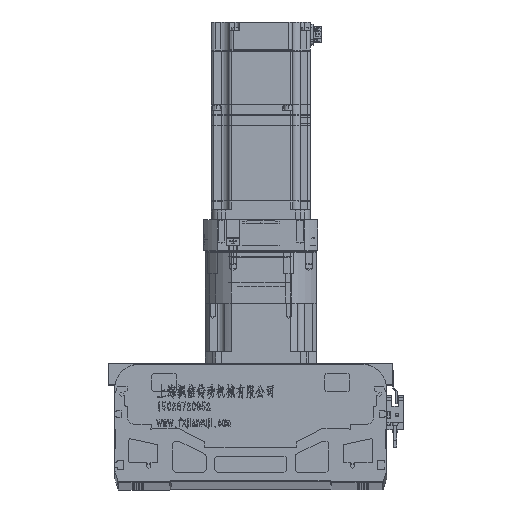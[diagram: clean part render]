
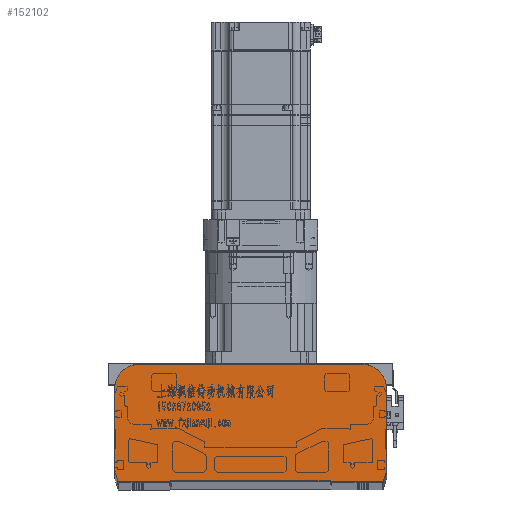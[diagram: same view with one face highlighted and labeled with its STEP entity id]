
A CAD part, top view. The second image highlights one B-rep face of the part: STEP entity #152102.
In plain terms, the highlighted planar face has unit normal (0, 0, 1).
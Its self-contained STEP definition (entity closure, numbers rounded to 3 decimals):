
#2049 = VERTEX_POINT ( 'NONE', #125816 ) ;
#2744 = CARTESIAN_POINT ( 'NONE',  ( -1113.885, 1156.078, 3682. ) ) ;
#4117 = EDGE_CURVE ( 'NONE', #109192, #2049, #8654, .T. ) ;
#7277 = CARTESIAN_POINT ( 'NONE',  ( -1113.885, 1089.578, 3682. ) ) ;
#8654 = LINE ( 'NONE', #149180, #144306 ) ;
#9481 = CIRCLE ( 'NONE', #126124, 20. ) ;
#9866 = CARTESIAN_POINT ( 'NONE',  ( -913.885, 1156.078, 3682. ) ) ;
#10265 = VERTEX_POINT ( 'NONE', #2744 ) ;
#11826 = CARTESIAN_POINT ( 'NONE',  ( -893.885, 0., 3682. ) ) ;
#12565 = DIRECTION ( 'NONE',  ( 1., 0., 0. ) ) ;
#13036 = ORIENTED_EDGE ( 'NONE', *, *, #178438, .T. ) ;
#14247 = VECTOR ( 'NONE', #174231, 1000. ) ;
#14442 = DIRECTION ( 'NONE',  ( 0., 0., -1. ) ) ;
#15417 = DIRECTION ( 'NONE',  ( 0., 0., 1. ) ) ;
#19716 = DIRECTION ( 'NONE',  ( 0., 0., 1. ) ) ;
#21393 = AXIS2_PLACEMENT_3D ( 'NONE', #41570, #172647, #141782 ) ;
#23619 = LINE ( 'NONE', #81642, #45430 ) ;
#24097 = VERTEX_POINT ( 'NONE', #138201 ) ;
#28680 = LINE ( 'NONE', #11826, #111239 ) ;
#30327 = VECTOR ( 'NONE', #123907, 1000. ) ;
#30611 = VERTEX_POINT ( 'NONE', #45020 ) ;
#31975 = CARTESIAN_POINT ( 'NONE',  ( 0., 0., 3682. ) ) ;
#37662 = CARTESIAN_POINT ( 'NONE',  ( -1131.749, 378.678, 3682. ) ) ;
#41570 = CARTESIAN_POINT ( 'NONE',  ( -1106.605, 1083.578, 3682. ) ) ;
#44999 = VERTEX_POINT ( 'NONE', #7277 ) ;
#45020 = CARTESIAN_POINT ( 'NONE',  ( -893.885, 1089.578, 3682. ) ) ;
#45430 = VECTOR ( 'NONE', #92008, 1000. ) ;
#49264 = VERTEX_POINT ( 'NONE', #69477 ) ;
#50583 = AXIS2_PLACEMENT_3D ( 'NONE', #31975, #19716, #120025 ) ;
#60078 = EDGE_CURVE ( 'NONE', #44999, #10265, #88067, .T. ) ;
#60100 = CARTESIAN_POINT ( 'NONE',  ( 0., 1176.078, 3682. ) ) ;
#62140 = CARTESIAN_POINT ( 'NONE',  ( -1093.885, 1176.078, 3682. ) ) ;
#63089 = VERTEX_POINT ( 'NONE', #116765 ) ;
#69477 = CARTESIAN_POINT ( 'NONE',  ( -893.885, 1156.078, 3682. ) ) ;
#79831 = DIRECTION ( 'NONE',  ( 1., 0., 0. ) ) ;
#81642 = CARTESIAN_POINT ( 'NONE',  ( -673.874, -225.475, 3682. ) ) ;
#84649 = CARTESIAN_POINT ( 'NONE',  ( -1093.885, 1156.078, 3682. ) ) ;
#88067 = LINE ( 'NONE', #145193, #14247 ) ;
#92008 = DIRECTION ( 'NONE',  ( -0.317, 0.948, 0. ) ) ;
#93218 = CARTESIAN_POINT ( 'NONE',  ( -896.423, 1081.992, 3682. ) ) ;
#96917 = ORIENTED_EDGE ( 'NONE', *, *, #155912, .F. ) ;
#97362 = EDGE_CURVE ( 'NONE', #30611, #49264, #28680, .T. ) ;
#98653 = ORIENTED_EDGE ( 'NONE', *, *, #159001, .T. ) ;
#98779 = DIRECTION ( 'NONE',  ( 0., 0., -1. ) ) ;
#100668 = CARTESIAN_POINT ( 'NONE',  ( -901.165, 1083.578, 3682. ) ) ;
#108158 = CIRCLE ( 'NONE', #111215, 5. ) ;
#108918 = LINE ( 'NONE', #37662, #30327 ) ;
#109192 = VERTEX_POINT ( 'NONE', #174426 ) ;
#109598 = EDGE_LOOP ( 'NONE', ( #146626, #173589, #176298, #98653, #13036, #129574, #96917, #126518, #172291, #151216 ) ) ;
#110056 = EDGE_CURVE ( 'NONE', #24097, #44999, #23619, .T. ) ;
#110654 = EDGE_CURVE ( 'NONE', #24097, #109192, #179922, .T. ) ;
#110664 = EDGE_CURVE ( 'NONE', #10265, #160018, #9481, .T. ) ;
#111215 = AXIS2_PLACEMENT_3D ( 'NONE', #100668, #15417, #146438 ) ;
#111239 = VECTOR ( 'NONE', #156996, 1000. ) ;
#111539 = AXIS2_PLACEMENT_3D ( 'NONE', #9866, #98779, #138163 ) ;
#116765 = CARTESIAN_POINT ( 'NONE',  ( -913.885, 1176.078, 3682. ) ) ;
#120025 = DIRECTION ( 'NONE',  ( 1., 0., 0. ) ) ;
#123907 = DIRECTION ( 'NONE',  ( 0.317, 0.948, 0. ) ) ;
#125816 = CARTESIAN_POINT ( 'NONE',  ( -896.835, 1081.078, 3682. ) ) ;
#126124 = AXIS2_PLACEMENT_3D ( 'NONE', #84649, #14442, #12565 ) ;
#126518 = ORIENTED_EDGE ( 'NONE', *, *, #175693, .F. ) ;
#129574 = ORIENTED_EDGE ( 'NONE', *, *, #97362, .T. ) ;
#138163 = DIRECTION ( 'NONE',  ( 1., 0., 0. ) ) ;
#138201 = CARTESIAN_POINT ( 'NONE',  ( -1111.346, 1081.992, 3682. ) ) ;
#138765 = VERTEX_POINT ( 'NONE', #93218 ) ;
#141782 = DIRECTION ( 'NONE',  ( 1., 0., 0. ) ) ;
#144306 = VECTOR ( 'NONE', #79831, 1000. ) ;
#145193 = CARTESIAN_POINT ( 'NONE',  ( -1113.885, 0., 3682. ) ) ;
#146438 = DIRECTION ( 'NONE',  ( 1., 0., 0. ) ) ;
#146626 = ORIENTED_EDGE ( 'NONE', *, *, #110056, .F. ) ;
#148044 = PLANE ( 'NONE',  #50583 ) ;
#149180 = CARTESIAN_POINT ( 'NONE',  ( 0., 1081.078, 3682. ) ) ;
#151216 = ORIENTED_EDGE ( 'NONE', *, *, #60078, .F. ) ;
#152102 = ADVANCED_FACE ( 'NONE', ( #178888 ), #148044, .T. ) ;
#155912 = EDGE_CURVE ( 'NONE', #63089, #49264, #168294, .T. ) ;
#156996 = DIRECTION ( 'NONE',  ( 0., 1., 0. ) ) ;
#158506 = LINE ( 'NONE', #60100, #169876 ) ;
#159001 = EDGE_CURVE ( 'NONE', #2049, #138765, #108158, .T. ) ;
#160018 = VERTEX_POINT ( 'NONE', #62140 ) ;
#160334 = DIRECTION ( 'NONE',  ( 1., 0., 0. ) ) ;
#168294 = CIRCLE ( 'NONE', #111539, 20. ) ;
#169876 = VECTOR ( 'NONE', #160334, 1000. ) ;
#172291 = ORIENTED_EDGE ( 'NONE', *, *, #110664, .F. ) ;
#172647 = DIRECTION ( 'NONE',  ( 0., 0., 1. ) ) ;
#173589 = ORIENTED_EDGE ( 'NONE', *, *, #110654, .T. ) ;
#174231 = DIRECTION ( 'NONE',  ( 0., 1., 0. ) ) ;
#174426 = CARTESIAN_POINT ( 'NONE',  ( -1110.935, 1081.078, 3682. ) ) ;
#175693 = EDGE_CURVE ( 'NONE', #160018, #63089, #158506, .T. ) ;
#176298 = ORIENTED_EDGE ( 'NONE', *, *, #4117, .T. ) ;
#178438 = EDGE_CURVE ( 'NONE', #138765, #30611, #108918, .T. ) ;
#178888 = FACE_OUTER_BOUND ( 'NONE', #109598, .T. ) ;
#179922 = CIRCLE ( 'NONE', #21393, 5. ) ;
